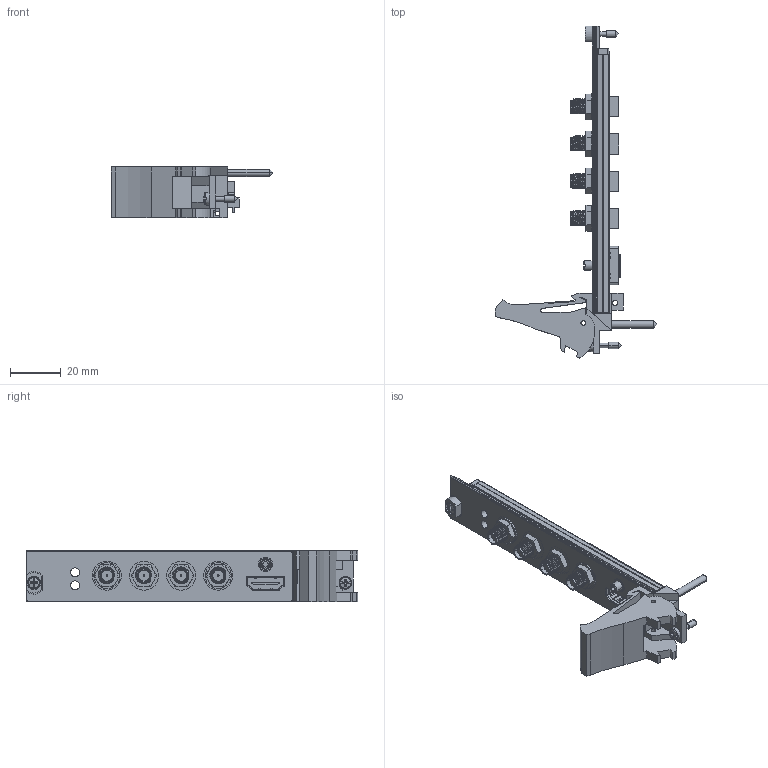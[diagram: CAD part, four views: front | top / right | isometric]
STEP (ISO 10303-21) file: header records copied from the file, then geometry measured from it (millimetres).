
FILE_DESCRIPTION((''),'2;1');
FILE_NAME('CU_PXIE-5624R','2014-05-29T',('jjorden'),(''),'PRO/ENGINEER BY PARAMETRIC TECHNOLOGY CORPORATION, 2014000','PRO/ENGINEER BY PARAMETRIC TECHNOLOGY CORPORATION, 2014000','');
FILE_SCHEMA(('CONFIG_CONTROL_DESIGN'));
Length unit declared in the file: inch
Products named in the file (1): CU_PXIE-5624R
Bounding box: 63.53 x 130.5 x 20.31 mm (x, y, z)
Volume: 17286.4 mm3; surface area: 19763.1 mm2
Topology: 2 solids, 2 shells, 1806 faces, 4963 edges, 3159 vertices
Faces by surface type: plane 788, cylinder 566, bspline 298, cone 88, torus 62, sphere 4
Entity records: 107258 total; most frequent: CARTESIAN_POINT 64349, ORIENTED_EDGE 9918, DIRECTION 7494, EDGE_CURVE 4959, VERTEX_POINT 3159, AXIS2_PLACEMENT_3D 2548, VECTOR 2398, LINE 2398
